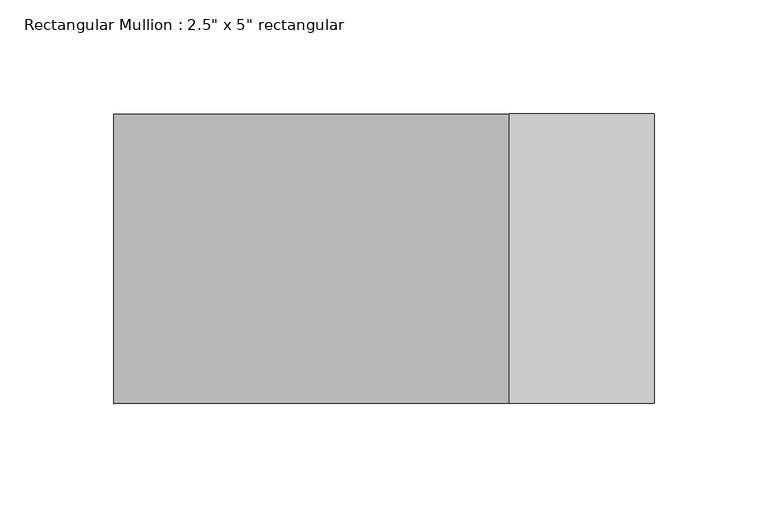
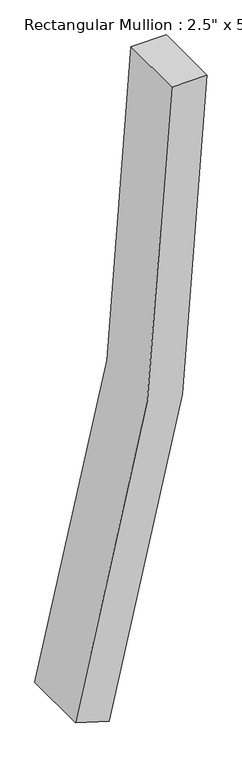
"""IFC4 building model written with IfcOpenShell, lengths in millimetres: member geometry."""

from ifc_helpers import new_model, si_unit, point, frame, frame_2d, origin, place, context, project, spatial, polyline, circle_curve, trimmed, segment, composite_curve, outline, extrude, source, transform, mapped, element, save


def member_3adf77c9(model_context):
    return source(origin(), model_context, "Body", "SweptSolid", [
        extrude(outline(composite_curve([segment(trimmed(circle_curve(frame_2d((0.0, -3962.4)), 3962.4), [point((-1169.3167231, -176.463899))], [point((0.0, 0.0))], False, "CARTESIAN"), True, "CONTINUOUS"), segment(polyline([(0.0, 0.0), (0.0, -63.5)]), True, "CONTINUOUS"), segment(trimmed(circle_curve(frame_2d((0.0, -3962.4)), 3898.9), [point((0.0, -63.5))], [point((-1150.5776731, -237.1359519))], True, "CARTESIAN"), True, "CONTINUOUS"), segment(polyline([(-1150.5776731, -237.1359519), (-1169.3167231, -176.463899)]), True, "CONTINUOUS")], self_intersect=False)), frame((0.0, -63.5, 0.0), z_axis=(0.0, 1.0, 0.0), x_axis=(0.0, 0.0, 1.0)), (0.0, 0.0, 1.0), 127.0),
    ])


if __name__ == "__main__":
    model = new_model("IFC4")
    model_context = context("Model", 3, world=origin())
    ifc_project = project(units=[si_unit("LENGTHUNIT", "METRE", prefix="MILLI")], contexts=[model_context])
    site = spatial("IfcSite", under=ifc_project)
    building = spatial("IfcBuilding", under=site)
    placement = place(None, origin())
    member_shape = member_3adf77c9(model_context)
    element("IfcMember", 1, ObjectType="Rectangular Mullion : 2.5\" x 5\" rectangular", at=placement, inside=building, context=model_context, shape_type="MappedRepresentation", body=[
        mapped(member_shape, transform((0.0, 0.0, 0.0), x_axis=(1.0, 0.0, 0.0), y_axis=(0.0, 1.0, 0.0), z_axis=(0.0, 0.0, 1.0))),
    ])
    save(model, "model.ifc")
